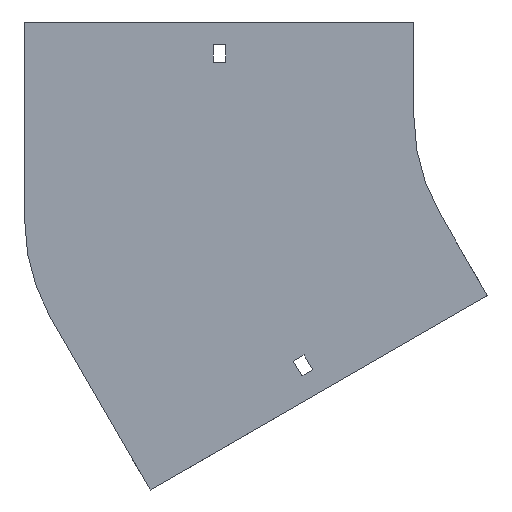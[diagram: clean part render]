
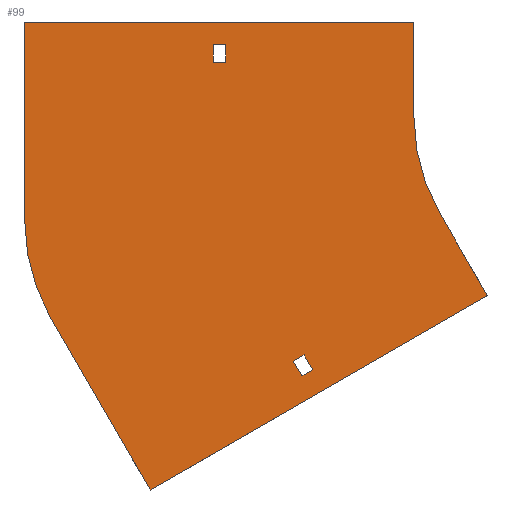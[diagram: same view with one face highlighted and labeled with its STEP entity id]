
A CAD part, front view. The second image highlights one B-rep face of the part: STEP entity #99.
In plain terms, the highlighted planar face has unit normal (0, -1, 0).
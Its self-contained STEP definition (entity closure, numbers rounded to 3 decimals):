
#17 = LINE ( 'NONE', #1090, #125 ) ;
#19 = EDGE_CURVE ( 'NONE', #861, #473, #1261, .T. ) ;
#23 = DIRECTION ( 'NONE',  ( 0., 0., -1. ) ) ;
#34 = ORIENTED_EDGE ( 'NONE', *, *, #204, .F. ) ;
#43 = EDGE_LOOP ( 'NONE', ( #666, #1143, #391, #904 ) ) ;
#51 = EDGE_CURVE ( 'NONE', #270, #499, #607, .T. ) ;
#67 = CARTESIAN_POINT ( 'NONE',  ( -205.25, 0., 29. ) ) ;
#68 = CARTESIAN_POINT ( 'NONE',  ( -304., 0., 50. ) ) ;
#77 = ORIENTED_EDGE ( 'NONE', *, *, #1028, .F. ) ;
#81 = LINE ( 'NONE', #418, #387 ) ;
#83 = ORIENTED_EDGE ( 'NONE', *, *, #1173, .F. ) ;
#84 = EDGE_CURVE ( 'NONE', #457, #1101, #81, .T. ) ;
#97 = CARTESIAN_POINT ( 'NONE',  ( -205.25, 0., 38. ) ) ;
#99 = ADVANCED_FACE ( 'NONE', ( #1048, #412, #1179 ), #832, .T. ) ;
#125 = VECTOR ( 'NONE', #224, 1000. ) ;
#132 = VECTOR ( 'NONE', #287, 1000. ) ;
#141 = CARTESIAN_POINT ( 'NONE',  ( -61.603, 0., -93.301 ) ) ;
#146 = VERTEX_POINT ( 'NONE', #539 ) ;
#151 = LINE ( 'NONE', #259, #1277 ) ;
#153 = EDGE_LOOP ( 'NONE', ( #943, #1338, #803, #34 ) ) ;
#167 = CIRCLE ( 'NONE', #1258, 100. ) ;
#168 = DIRECTION ( 'NONE',  ( -0.866, 0., -0.5 ) ) ;
#180 = DIRECTION ( 'NONE',  ( 0., -1., 0. ) ) ;
#183 = DIRECTION ( 'NONE',  ( -0.5, 0., 0.866 ) ) ;
#204 = EDGE_CURVE ( 'NONE', #567, #270, #1053, .T. ) ;
#213 = CARTESIAN_POINT ( 'NONE',  ( -158.752, 0., -135.534 ) ) ;
#214 = ORIENTED_EDGE ( 'NONE', *, *, #299, .F. ) ;
#224 = DIRECTION ( 'NONE',  ( 0.866, 0., 0.5 ) ) ;
#238 = CARTESIAN_POINT ( 'NONE',  ( -163.252, 0., -127.74 ) ) ;
#247 = EDGE_CURVE ( 'NONE', #146, #1112, #366, .T. ) ;
#259 = CARTESIAN_POINT ( 'NONE',  ( -304., 0., 50. ) ) ;
#270 = VERTEX_POINT ( 'NONE', #707 ) ;
#287 = DIRECTION ( 'NONE',  ( 0., 0., 1. ) ) ;
#297 = CARTESIAN_POINT ( 'NONE',  ( -163.252, 0., -127.74 ) ) ;
#299 = EDGE_CURVE ( 'NONE', #1356, #1199, #698, .T. ) ;
#319 = ORIENTED_EDGE ( 'NONE', *, *, #851, .F. ) ;
#331 = LINE ( 'NONE', #748, #781 ) ;
#341 = EDGE_CURVE ( 'NONE', #1104, #1326, #489, .T. ) ;
#344 = VECTOR ( 'NONE', #168, 1000. ) ;
#366 = LINE ( 'NONE', #977, #1049 ) ;
#378 = DIRECTION ( 'NONE',  ( 1., 0., 0. ) ) ;
#387 = VECTOR ( 'NONE', #521, 1000. ) ;
#389 = VECTOR ( 'NONE', #23, 1000. ) ;
#391 = ORIENTED_EDGE ( 'NONE', *, *, #247, .T. ) ;
#392 = EDGE_CURVE ( 'NONE', #473, #146, #783, .T. ) ;
#399 = CARTESIAN_POINT ( 'NONE',  ( -238.272, 0., -195.301 ) ) ;
#409 = LINE ( 'NONE', #835, #1189 ) ;
#412 = FACE_OUTER_BOUND ( 'NONE', #709, .T. ) ;
#418 = CARTESIAN_POINT ( 'NONE',  ( -86.603, 0., -50. ) ) ;
#435 = DIRECTION ( 'NONE',  ( 0., 0., 1. ) ) ;
#444 = DIRECTION ( 'NONE',  ( -0.5, 0., 0.866 ) ) ;
#448 = CARTESIAN_POINT ( 'NONE',  ( -204., 0., -54.662 ) ) ;
#451 = ORIENTED_EDGE ( 'NONE', *, *, #600, .F. ) ;
#457 = VERTEX_POINT ( 'NONE', #1174 ) ;
#461 = CARTESIAN_POINT ( 'NONE',  ( -163.252, 0., -127.74 ) ) ;
#468 = DIRECTION ( 'NONE',  ( 1., 0., 0. ) ) ;
#473 = VERTEX_POINT ( 'NONE', #97 ) ;
#489 = LINE ( 'NONE', #885, #389 ) ;
#491 = AXIS2_PLACEMENT_3D ( 'NONE', #529, #850, #1068 ) ;
#499 = VERTEX_POINT ( 'NONE', #461 ) ;
#500 = LINE ( 'NONE', #931, #1382 ) ;
#521 = DIRECTION ( 'NONE',  ( 0.5, 0., -0.866 ) ) ;
#524 = VERTEX_POINT ( 'NONE', #213 ) ;
#529 = CARTESIAN_POINT ( 'NONE',  ( 0., 0., 0. ) ) ;
#539 = CARTESIAN_POINT ( 'NONE',  ( -198.75, 0., 38. ) ) ;
#545 = DIRECTION ( 'NONE',  ( -1., 0., 0. ) ) ;
#550 = DIRECTION ( 'NONE',  ( 0.5, 0., -0.866 ) ) ;
#567 = VERTEX_POINT ( 'NONE', #1255 ) ;
#571 = CARTESIAN_POINT ( 'NONE',  ( -290.603, 0., -104.662 ) ) ;
#600 = EDGE_CURVE ( 'NONE', #1101, #1229, #500, .T. ) ;
#607 = LINE ( 'NONE', #297, #344 ) ;
#608 = VERTEX_POINT ( 'NONE', #571 ) ;
#614 = CARTESIAN_POINT ( 'NONE',  ( -198.75, 0., 29. ) ) ;
#634 = CARTESIAN_POINT ( 'NONE',  ( -157.623, 0., -124.49 ) ) ;
#646 = CARTESIAN_POINT ( 'NONE',  ( -304., 0., -54.662 ) ) ;
#649 = CARTESIAN_POINT ( 'NONE',  ( -205.25, 0., 29. ) ) ;
#662 = LINE ( 'NONE', #238, #1355 ) ;
#666 = ORIENTED_EDGE ( 'NONE', *, *, #19, .T. ) ;
#698 = LINE ( 'NONE', #1026, #961 ) ;
#707 = CARTESIAN_POINT ( 'NONE',  ( -157.623, 0., -124.49 ) ) ;
#709 = EDGE_LOOP ( 'NONE', ( #77, #214, #319, #83, #451, #948, #823, #1335 ) ) ;
#725 = DIRECTION ( 'NONE',  ( 0., 0., -1. ) ) ;
#748 = CARTESIAN_POINT ( 'NONE',  ( -205.25, 0., 29. ) ) ;
#781 = VECTOR ( 'NONE', #545, 1000. ) ;
#783 = LINE ( 'NONE', #1218, #1278 ) ;
#803 = ORIENTED_EDGE ( 'NONE', *, *, #51, .F. ) ;
#823 = ORIENTED_EDGE ( 'NONE', *, *, #1103, .F. ) ;
#832 = PLANE ( 'NONE',  #491 ) ;
#835 = CARTESIAN_POINT ( 'NONE',  ( -238.272, 0., -195.301 ) ) ;
#850 = DIRECTION ( 'NONE',  ( 0., -1., 0. ) ) ;
#851 = EDGE_CURVE ( 'NONE', #608, #1356, #167, .T. ) ;
#861 = VERTEX_POINT ( 'NONE', #649 ) ;
#885 = CARTESIAN_POINT ( 'NONE',  ( -100., 0., 50. ) ) ;
#887 = EDGE_CURVE ( 'NONE', #1112, #861, #331, .T. ) ;
#893 = CIRCLE ( 'NONE', #1033, 100. ) ;
#895 = EDGE_CURVE ( 'NONE', #524, #567, #17, .T. ) ;
#904 = ORIENTED_EDGE ( 'NONE', *, *, #887, .T. ) ;
#925 = DIRECTION ( 'NONE',  ( -0.866, 0., -0.5 ) ) ;
#930 = CARTESIAN_POINT ( 'NONE',  ( 0., 0., 0. ) ) ;
#931 = CARTESIAN_POINT ( 'NONE',  ( -61.603, 0., -93.301 ) ) ;
#943 = ORIENTED_EDGE ( 'NONE', *, *, #895, .F. ) ;
#948 = ORIENTED_EDGE ( 'NONE', *, *, #84, .F. ) ;
#961 = VECTOR ( 'NONE', #1224, 1000. ) ;
#969 = DIRECTION ( 'NONE',  ( 0., 1., 0. ) ) ;
#977 = CARTESIAN_POINT ( 'NONE',  ( -198.75, 0., 29. ) ) ;
#1026 = CARTESIAN_POINT ( 'NONE',  ( -304., 0., -54.662 ) ) ;
#1028 = EDGE_CURVE ( 'NONE', #1199, #1104, #151, .T. ) ;
#1033 = AXIS2_PLACEMENT_3D ( 'NONE', #930, #180, #725 ) ;
#1048 = FACE_BOUND ( 'NONE', #43, .T. ) ;
#1049 = VECTOR ( 'NONE', #1109, 1000. ) ;
#1053 = LINE ( 'NONE', #634, #1392 ) ;
#1068 = DIRECTION ( 'NONE',  ( 0., 0., -1. ) ) ;
#1090 = CARTESIAN_POINT ( 'NONE',  ( -158.752, 0., -135.534 ) ) ;
#1101 = VERTEX_POINT ( 'NONE', #141 ) ;
#1103 = EDGE_CURVE ( 'NONE', #1326, #457, #893, .T. ) ;
#1104 = VERTEX_POINT ( 'NONE', #1154 ) ;
#1109 = DIRECTION ( 'NONE',  ( 0., 0., -1. ) ) ;
#1112 = VERTEX_POINT ( 'NONE', #614 ) ;
#1143 = ORIENTED_EDGE ( 'NONE', *, *, #392, .T. ) ;
#1154 = CARTESIAN_POINT ( 'NONE',  ( -100., 0., 50. ) ) ;
#1173 = EDGE_CURVE ( 'NONE', #1229, #608, #409, .T. ) ;
#1174 = CARTESIAN_POINT ( 'NONE',  ( -86.603, 0., -50. ) ) ;
#1179 = FACE_BOUND ( 'NONE', #153, .T. ) ;
#1189 = VECTOR ( 'NONE', #183, 1000. ) ;
#1199 = VERTEX_POINT ( 'NONE', #68 ) ;
#1218 = CARTESIAN_POINT ( 'NONE',  ( -205.25, 0., 38. ) ) ;
#1224 = DIRECTION ( 'NONE',  ( 0., 0., 1. ) ) ;
#1229 = VERTEX_POINT ( 'NONE', #399 ) ;
#1255 = CARTESIAN_POINT ( 'NONE',  ( -153.123, 0., -132.284 ) ) ;
#1258 = AXIS2_PLACEMENT_3D ( 'NONE', #448, #969, #435 ) ;
#1261 = LINE ( 'NONE', #67, #132 ) ;
#1277 = VECTOR ( 'NONE', #378, 1000. ) ;
#1278 = VECTOR ( 'NONE', #468, 1000. ) ;
#1298 = EDGE_CURVE ( 'NONE', #499, #524, #662, .T. ) ;
#1310 = CARTESIAN_POINT ( 'NONE',  ( -100., 0., 0. ) ) ;
#1326 = VERTEX_POINT ( 'NONE', #1310 ) ;
#1335 = ORIENTED_EDGE ( 'NONE', *, *, #341, .F. ) ;
#1338 = ORIENTED_EDGE ( 'NONE', *, *, #1298, .F. ) ;
#1355 = VECTOR ( 'NONE', #550, 1000. ) ;
#1356 = VERTEX_POINT ( 'NONE', #646 ) ;
#1382 = VECTOR ( 'NONE', #925, 1000. ) ;
#1392 = VECTOR ( 'NONE', #444, 1000. ) ;
